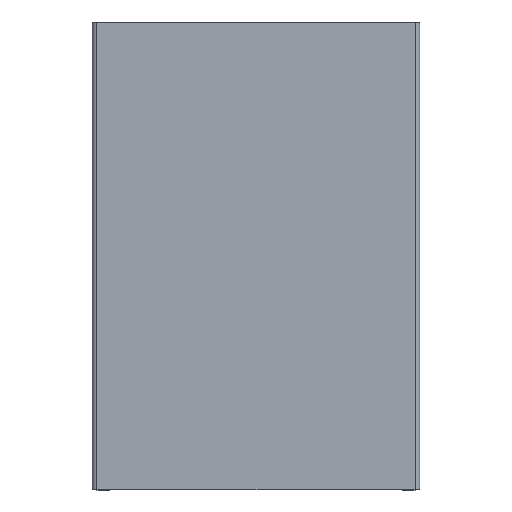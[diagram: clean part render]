
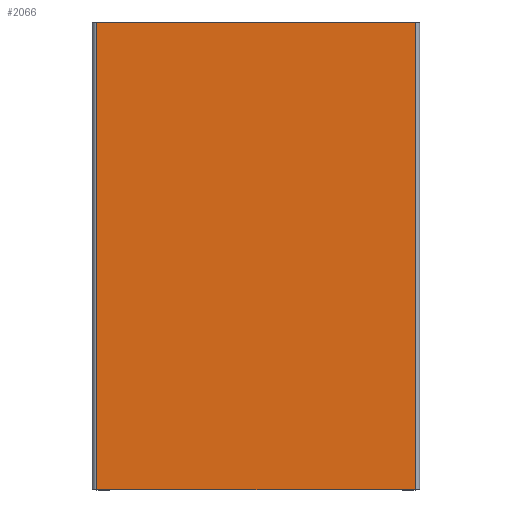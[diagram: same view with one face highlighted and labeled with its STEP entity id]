
A CAD part, top view. The second image highlights one B-rep face of the part: STEP entity #2066.
In plain terms, the highlighted planar face has unit normal (0, 0, 1).
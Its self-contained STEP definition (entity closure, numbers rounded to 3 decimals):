
#44 = PLANE('',#45);
#45 = AXIS2_PLACEMENT_3D('',#46,#47,#48);
#46 = CARTESIAN_POINT('',(0.,0.,0.));
#47 = DIRECTION('',(0.,1.,0.));
#48 = DIRECTION('',(0.,0.,1.));
#100 = PLANE('',#101);
#101 = AXIS2_PLACEMENT_3D('',#102,#103,#104);
#102 = CARTESIAN_POINT('',(0.,400.,0.));
#103 = DIRECTION('',(0.,1.,0.));
#104 = DIRECTION('',(0.,0.,1.));
#126 = CYLINDRICAL_SURFACE('',#127,4.);
#127 = AXIS2_PLACEMENT_3D('',#128,#129,#130);
#128 = CARTESIAN_POINT('',(4.,0.,103.));
#129 = DIRECTION('',(0.,1.,0.));
#130 = DIRECTION('',(-1.,0.,0.));
#303 = VERTEX_POINT('',#304);
#304 = CARTESIAN_POINT('',(4.,0.,107.));
#326 = EDGE_CURVE('',#303,#327,#329,.T.);
#327 = VERTEX_POINT('',#328);
#328 = CARTESIAN_POINT('',(276.,0.,107.));
#329 = SURFACE_CURVE('',#330,(#334,#341),.PCURVE_S1.);
#330 = LINE('',#331,#332);
#331 = CARTESIAN_POINT('',(0.,0.,107.));
#332 = VECTOR('',#333,1.);
#333 = DIRECTION('',(1.,0.,0.));
#334 = PCURVE('',#44,#335);
#335 = DEFINITIONAL_REPRESENTATION('',(#336),#340);
#336 = LINE('',#337,#338);
#337 = CARTESIAN_POINT('',(107.,0.));
#338 = VECTOR('',#339,1.);
#339 = DIRECTION('',(0.,1.));
#340 = ( GEOMETRIC_REPRESENTATION_CONTEXT(2) 
PARAMETRIC_REPRESENTATION_CONTEXT() REPRESENTATION_CONTEXT('2D SPACE',''
  ) );
#341 = PCURVE('',#342,#347);
#342 = PLANE('',#343);
#343 = AXIS2_PLACEMENT_3D('',#344,#345,#346);
#344 = CARTESIAN_POINT('',(0.,0.,107.));
#345 = DIRECTION('',(0.,0.,1.));
#346 = DIRECTION('',(1.,0.,0.));
#347 = DEFINITIONAL_REPRESENTATION('',(#348),#352);
#348 = LINE('',#349,#350);
#349 = CARTESIAN_POINT('',(0.,0.));
#350 = VECTOR('',#351,1.);
#351 = DIRECTION('',(1.,0.));
#352 = ( GEOMETRIC_REPRESENTATION_CONTEXT(2) 
PARAMETRIC_REPRESENTATION_CONTEXT() REPRESENTATION_CONTEXT('2D SPACE',''
  ) );
#371 = CYLINDRICAL_SURFACE('',#372,4.);
#372 = AXIS2_PLACEMENT_3D('',#373,#374,#375);
#373 = CARTESIAN_POINT('',(276.,0.,103.));
#374 = DIRECTION('',(0.,1.,0.));
#375 = DIRECTION('',(0.,0.,1.));
#900 = EDGE_CURVE('',#303,#901,#903,.T.);
#901 = VERTEX_POINT('',#902);
#902 = CARTESIAN_POINT('',(4.,400.,107.));
#903 = SURFACE_CURVE('',#904,(#908,#915),.PCURVE_S1.);
#904 = LINE('',#905,#906);
#905 = CARTESIAN_POINT('',(4.,0.,107.));
#906 = VECTOR('',#907,1.);
#907 = DIRECTION('',(0.,1.,0.));
#908 = PCURVE('',#126,#909);
#909 = DEFINITIONAL_REPRESENTATION('',(#910),#914);
#910 = LINE('',#911,#912);
#911 = CARTESIAN_POINT('',(1.571,0.));
#912 = VECTOR('',#913,1.);
#913 = DIRECTION('',(0.,1.));
#914 = ( GEOMETRIC_REPRESENTATION_CONTEXT(2) 
PARAMETRIC_REPRESENTATION_CONTEXT() REPRESENTATION_CONTEXT('2D SPACE',''
  ) );
#915 = PCURVE('',#342,#916);
#916 = DEFINITIONAL_REPRESENTATION('',(#917),#921);
#917 = LINE('',#918,#919);
#918 = CARTESIAN_POINT('',(4.,0.));
#919 = VECTOR('',#920,1.);
#920 = DIRECTION('',(0.,1.));
#921 = ( GEOMETRIC_REPRESENTATION_CONTEXT(2) 
PARAMETRIC_REPRESENTATION_CONTEXT() REPRESENTATION_CONTEXT('2D SPACE',''
  ) );
#1108 = EDGE_CURVE('',#901,#1109,#1111,.T.);
#1109 = VERTEX_POINT('',#1110);
#1110 = CARTESIAN_POINT('',(276.,400.,107.));
#1111 = SURFACE_CURVE('',#1112,(#1116,#1123),.PCURVE_S1.);
#1112 = LINE('',#1113,#1114);
#1113 = CARTESIAN_POINT('',(0.,400.,107.));
#1114 = VECTOR('',#1115,1.);
#1115 = DIRECTION('',(1.,0.,0.));
#1116 = PCURVE('',#100,#1117);
#1117 = DEFINITIONAL_REPRESENTATION('',(#1118),#1122);
#1118 = LINE('',#1119,#1120);
#1119 = CARTESIAN_POINT('',(107.,0.));
#1120 = VECTOR('',#1121,1.);
#1121 = DIRECTION('',(0.,1.));
#1122 = ( GEOMETRIC_REPRESENTATION_CONTEXT(2) 
PARAMETRIC_REPRESENTATION_CONTEXT() REPRESENTATION_CONTEXT('2D SPACE',''
  ) );
#1123 = PCURVE('',#342,#1124);
#1124 = DEFINITIONAL_REPRESENTATION('',(#1125),#1129);
#1125 = LINE('',#1126,#1127);
#1126 = CARTESIAN_POINT('',(0.,400.));
#1127 = VECTOR('',#1128,1.);
#1128 = DIRECTION('',(1.,0.));
#1129 = ( GEOMETRIC_REPRESENTATION_CONTEXT(2) 
PARAMETRIC_REPRESENTATION_CONTEXT() REPRESENTATION_CONTEXT('2D SPACE',''
  ) );
#2046 = EDGE_CURVE('',#327,#1109,#2047,.T.);
#2047 = SURFACE_CURVE('',#2048,(#2052,#2059),.PCURVE_S1.);
#2048 = LINE('',#2049,#2050);
#2049 = CARTESIAN_POINT('',(276.,0.,107.));
#2050 = VECTOR('',#2051,1.);
#2051 = DIRECTION('',(0.,1.,0.));
#2052 = PCURVE('',#371,#2053);
#2053 = DEFINITIONAL_REPRESENTATION('',(#2054),#2058);
#2054 = LINE('',#2055,#2056);
#2055 = CARTESIAN_POINT('',(0.,0.));
#2056 = VECTOR('',#2057,1.);
#2057 = DIRECTION('',(0.,1.));
#2058 = ( GEOMETRIC_REPRESENTATION_CONTEXT(2) 
PARAMETRIC_REPRESENTATION_CONTEXT() REPRESENTATION_CONTEXT('2D SPACE',''
  ) );
#2059 = PCURVE('',#342,#2060);
#2060 = DEFINITIONAL_REPRESENTATION('',(#2061),#2065);
#2061 = LINE('',#2062,#2063);
#2062 = CARTESIAN_POINT('',(276.,0.));
#2063 = VECTOR('',#2064,1.);
#2064 = DIRECTION('',(0.,1.));
#2065 = ( GEOMETRIC_REPRESENTATION_CONTEXT(2) 
PARAMETRIC_REPRESENTATION_CONTEXT() REPRESENTATION_CONTEXT('2D SPACE',''
  ) );
#2066 = ADVANCED_FACE('',(#2067),#342,.T.);
#2067 = FACE_BOUND('',#2068,.T.);
#2068 = EDGE_LOOP('',(#2069,#2070,#2071,#2072));
#2069 = ORIENTED_EDGE('',*,*,#900,.F.);
#2070 = ORIENTED_EDGE('',*,*,#326,.T.);
#2071 = ORIENTED_EDGE('',*,*,#2046,.T.);
#2072 = ORIENTED_EDGE('',*,*,#1108,.F.);
